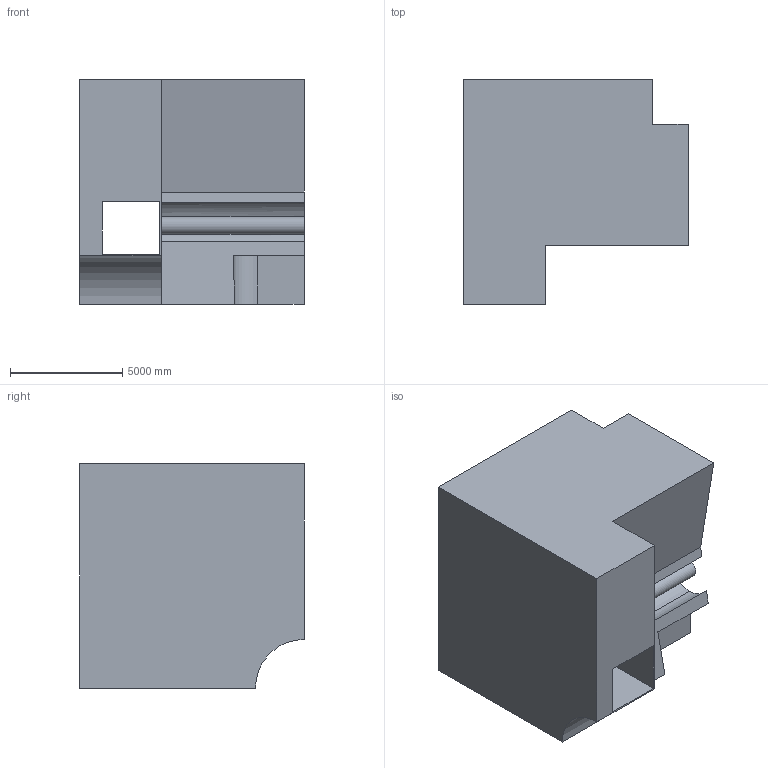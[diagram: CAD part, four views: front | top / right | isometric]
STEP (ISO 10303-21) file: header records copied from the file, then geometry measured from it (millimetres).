
FILE_DESCRIPTION (( 'STEP AP203' ), '1' );
FILE_NAME ('589.STEP', '2022-07-29T11:58:06', ( 'user' ), ( '' ), 'SwSTEP 2.0', 'SolidWorks 2021', '' );
FILE_SCHEMA (( 'CONFIG_CONTROL_DESIGN' ));
Length unit declared in the file: centimetre
Products named in the file (1): 589
Bounding box: 10000 x 10000 x 10000 mm (x, y, z)
Volume: 664905741282.8 mm3; surface area: 669754223.8 mm2
Topology: 2 solids, 2 shells, 28 faces, 78 edges, 52 vertices
Faces by surface type: plane 21, cylinder 7
Entity records: 983 total; most frequent: CARTESIAN_POINT 162, ORIENTED_EDGE 156, DIRECTION 153, EDGE_CURVE 78, VECTOR 59, LINE 59, VERTEX_POINT 52, AXIS2_PLACEMENT_3D 47
